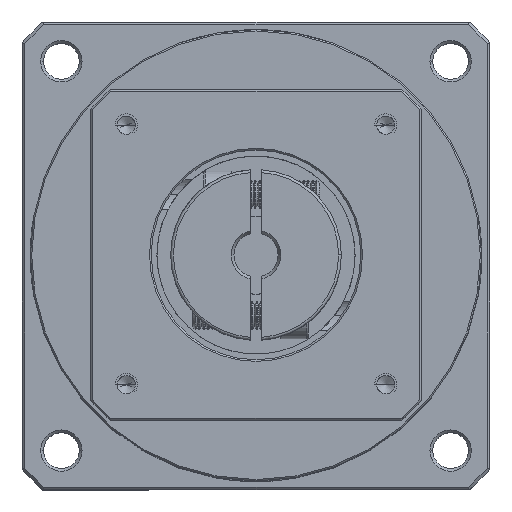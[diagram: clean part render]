
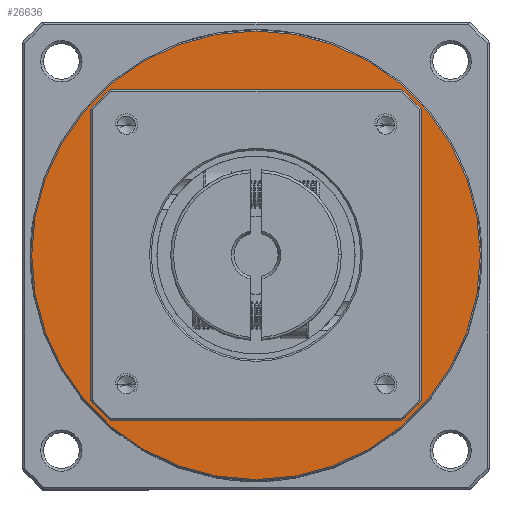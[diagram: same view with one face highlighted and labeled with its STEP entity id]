
A CAD part, top view. The second image highlights one B-rep face of the part: STEP entity #26636.
In plain terms, the highlighted planar face has unit normal (0, 0, 1).
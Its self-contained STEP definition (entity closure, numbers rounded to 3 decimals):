
#709 = DIRECTION ( 'NONE',  ( 1., 0., 0. ) ) ;
#2522 = VERTEX_POINT ( 'NONE', #41918 ) ;
#8401 = DIRECTION ( 'NONE',  ( 0., 0., 1. ) ) ;
#8883 = CIRCLE ( 'NONE', #115009, 40.75 ) ;
#10096 = EDGE_CURVE ( 'NONE', #114556, #68349, #15433, .T. ) ;
#13141 = ORIENTED_EDGE ( 'NONE', *, *, #79334, .F. ) ;
#14111 = VERTEX_POINT ( 'NONE', #75248 ) ;
#15433 = CIRCLE ( 'NONE', #78939, 30. ) ;
#20675 = CARTESIAN_POINT ( 'NONE',  ( -57.521, 55.182, -47.623 ) ) ;
#25157 = ORIENTED_EDGE ( 'NONE', *, *, #103382, .T. ) ;
#26636 = ADVANCED_FACE ( 'NONE', ( #86489, #88904 ), #38868, .T. ) ;
#30164 = DIRECTION ( 'NONE',  ( 0., 0., 1. ) ) ;
#32688 = ORIENTED_EDGE ( 'NONE', *, *, #58982, .T. ) ;
#36954 = AXIS2_PLACEMENT_3D ( 'NONE', #98626, #30164, #80347 ) ;
#38868 = PLANE ( 'NONE',  #107033 ) ;
#40680 = DIRECTION ( 'NONE',  ( 0., 0., 1. ) ) ;
#41733 = EDGE_LOOP ( 'NONE', ( #118895, #13141 ) ) ;
#41918 = CARTESIAN_POINT ( 'NONE',  ( -98.271, 55.182, -47.623 ) ) ;
#48630 = DIRECTION ( 'NONE',  ( 0., 0., 1. ) ) ;
#55239 = EDGE_LOOP ( 'NONE', ( #25157, #32688 ) ) ;
#58285 = CARTESIAN_POINT ( 'NONE',  ( -57.521, 55.182, -47.623 ) ) ;
#58982 = EDGE_CURVE ( 'NONE', #14111, #2522, #81048, .T. ) ;
#59060 = CARTESIAN_POINT ( 'NONE',  ( -57.521, 55.182, -47.623 ) ) ;
#65360 = CIRCLE ( 'NONE', #36954, 30. ) ;
#68349 = VERTEX_POINT ( 'NONE', #73970 ) ;
#73970 = CARTESIAN_POINT ( 'NONE',  ( -27.521, 55.182, -47.623 ) ) ;
#75248 = CARTESIAN_POINT ( 'NONE',  ( -16.771, 55.182, -47.623 ) ) ;
#78939 = AXIS2_PLACEMENT_3D ( 'NONE', #58285, #117438, #709 ) ;
#79334 = EDGE_CURVE ( 'NONE', #68349, #114556, #65360, .T. ) ;
#80347 = DIRECTION ( 'NONE',  ( 1., 0., 0. ) ) ;
#81048 = CIRCLE ( 'NONE', #109781, 40.75 ) ;
#85484 = CARTESIAN_POINT ( 'NONE',  ( -87.521, 55.182, -47.623 ) ) ;
#86489 = FACE_BOUND ( 'NONE', #41733, .T. ) ;
#88904 = FACE_OUTER_BOUND ( 'NONE', #55239, .T. ) ;
#96162 = DIRECTION ( 'NONE',  ( 1., 0., 0. ) ) ;
#98626 = CARTESIAN_POINT ( 'NONE',  ( -57.521, 55.182, -47.623 ) ) ;
#103382 = EDGE_CURVE ( 'NONE', #2522, #14111, #8883, .T. ) ;
#107033 = AXIS2_PLACEMENT_3D ( 'NONE', #107325, #48630, #116704 ) ;
#107325 = CARTESIAN_POINT ( 'NONE',  ( -57.521, 55.182, -47.623 ) ) ;
#108713 = DIRECTION ( 'NONE',  ( 1., 0., 0. ) ) ;
#109781 = AXIS2_PLACEMENT_3D ( 'NONE', #20675, #40680, #108713 ) ;
#114556 = VERTEX_POINT ( 'NONE', #85484 ) ;
#115009 = AXIS2_PLACEMENT_3D ( 'NONE', #59060, #8401, #96162 ) ;
#116704 = DIRECTION ( 'NONE',  ( 1., 0., 0. ) ) ;
#117438 = DIRECTION ( 'NONE',  ( 0., 0., 1. ) ) ;
#118895 = ORIENTED_EDGE ( 'NONE', *, *, #10096, .F. ) ;
